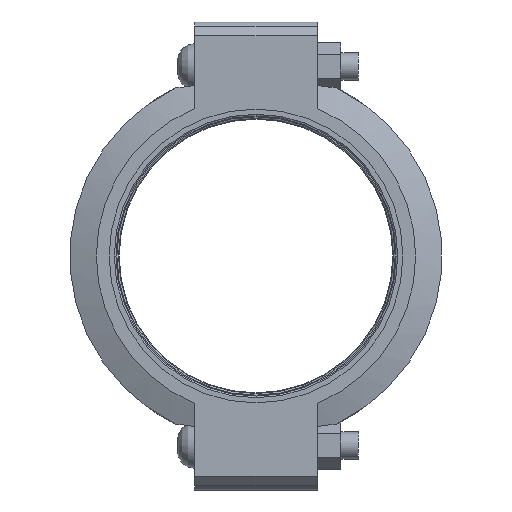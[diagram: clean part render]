
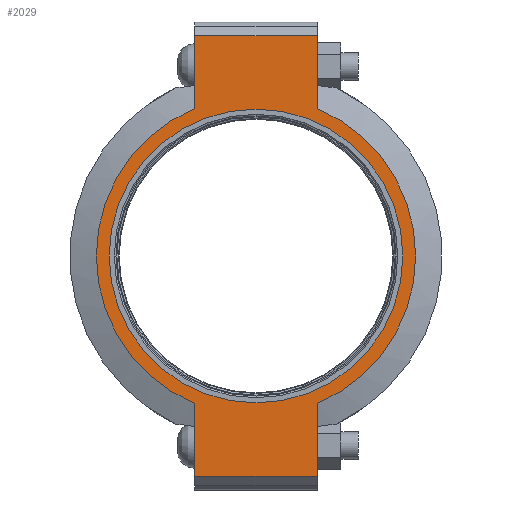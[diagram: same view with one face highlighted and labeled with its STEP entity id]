
A CAD part, left-side view. The second image highlights one B-rep face of the part: STEP entity #2029.
In plain terms, the highlighted planar face has unit normal (-1, 0, 0) as drawn and (0, 0, 1) by its records, which use the part's own axes.
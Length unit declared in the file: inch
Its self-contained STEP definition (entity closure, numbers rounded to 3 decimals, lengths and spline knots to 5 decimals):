
#138=LINE('',#3570,#231);
#149=LINE('',#3621,#242);
#155=LINE('',#3647,#248);
#157=LINE('',#3650,#250);
#158=LINE('',#3655,#251);
#159=LINE('',#3656,#252);
#231=VECTOR('',#2913,0.3937);
#242=VECTOR('',#2944,0.3937);
#248=VECTOR('',#2962,0.3937);
#250=VECTOR('',#2966,0.3937);
#251=VECTOR('',#2971,0.3937);
#252=VECTOR('',#2972,0.3937);
#315=FACE_BOUND('',#568,.T.);
#358=PLANE('',#2375);
#445=FACE_OUTER_BOUND('',#567,.T.);
#567=EDGE_LOOP('',(#1702,#1703,#1704,#1705,#1706,#1707,#1708,#1709));
#568=EDGE_LOOP('',(#1710));
#752=CIRCLE('',#2376,5.845);
#753=CIRCLE('',#2377,5.845);
#754=CIRCLE('',#2378,5.375);
#924=VERTEX_POINT('',#3567);
#925=VERTEX_POINT('',#3569);
#942=VERTEX_POINT('',#3616);
#943=VERTEX_POINT('',#3620);
#950=VERTEX_POINT('',#3642);
#951=VERTEX_POINT('',#3646);
#952=VERTEX_POINT('',#3652);
#953=VERTEX_POINT('',#3654);
#954=VERTEX_POINT('',#3658);
#1179=EDGE_CURVE('',#925,#924,#138,.T.);
#1200=EDGE_CURVE('',#943,#942,#149,.T.);
#1211=EDGE_CURVE('',#951,#950,#155,.T.);
#1213=EDGE_CURVE('',#951,#924,#157,.T.);
#1214=EDGE_CURVE('',#950,#952,#752,.T.);
#1215=EDGE_CURVE('',#952,#953,#158,.T.);
#1216=EDGE_CURVE('',#943,#953,#159,.T.);
#1217=EDGE_CURVE('',#942,#925,#753,.T.);
#1218=EDGE_CURVE('',#954,#954,#754,.T.);
#1702=ORIENTED_EDGE('',*,*,#1213,.F.);
#1703=ORIENTED_EDGE('',*,*,#1211,.T.);
#1704=ORIENTED_EDGE('',*,*,#1214,.T.);
#1705=ORIENTED_EDGE('',*,*,#1215,.T.);
#1706=ORIENTED_EDGE('',*,*,#1216,.F.);
#1707=ORIENTED_EDGE('',*,*,#1200,.T.);
#1708=ORIENTED_EDGE('',*,*,#1217,.T.);
#1709=ORIENTED_EDGE('',*,*,#1179,.T.);
#1710=ORIENTED_EDGE('',*,*,#1218,.T.);
#2029=ADVANCED_FACE('',(#445,#315),#358,.T.);
#2375=AXIS2_PLACEMENT_3D('',#3651,#2967,#2968);
#2376=AXIS2_PLACEMENT_3D('',#3653,#2969,#2970);
#2377=AXIS2_PLACEMENT_3D('',#3657,#2973,#2974);
#2378=AXIS2_PLACEMENT_3D('',#3659,#2975,#2976);
#2913=DIRECTION('',(1.,0.,0.));
#2944=DIRECTION('',(1.,0.,0.));
#2962=DIRECTION('',(-1.,0.,0.));
#2966=DIRECTION('',(0.,-1.,0.));
#2967=DIRECTION('center_axis',(0.,0.,1.));
#2968=DIRECTION('ref_axis',(-1.,0.,0.));
#2969=DIRECTION('center_axis',(0.,0.,1.));
#2970=DIRECTION('ref_axis',(1.,0.,0.));
#2971=DIRECTION('',(-1.,0.,0.));
#2972=DIRECTION('',(0.,1.,0.));
#2973=DIRECTION('center_axis',(0.,0.,1.));
#2974=DIRECTION('ref_axis',(1.,0.,0.));
#2975=DIRECTION('center_axis',(0.,0.,-1.));
#2976=DIRECTION('ref_axis',(1.,0.,0.));
#3567=CARTESIAN_POINT('',(8.065,-2.25,1.315));
#3569=CARTESIAN_POINT('',(5.39458,-2.25,1.315));
#3570=CARTESIAN_POINT('',(-8.565,-2.25,1.315));
#3616=CARTESIAN_POINT('',(-5.39458,-2.25,1.315));
#3620=CARTESIAN_POINT('',(-8.065,-2.25,1.315));
#3621=CARTESIAN_POINT('',(-8.565,-2.25,1.315));
#3642=CARTESIAN_POINT('',(5.39458,2.25,1.315));
#3646=CARTESIAN_POINT('',(8.065,2.25,1.315));
#3647=CARTESIAN_POINT('',(8.565,2.25,1.315));
#3650=CARTESIAN_POINT('',(8.065,-1.125,1.315));
#3651=CARTESIAN_POINT('Origin',(0.,0.,
1.315));
#3652=CARTESIAN_POINT('',(-5.39458,2.25,1.315));
#3653=CARTESIAN_POINT('Origin',(0.,0.,1.315));
#3654=CARTESIAN_POINT('',(-8.065,2.25,1.315));
#3655=CARTESIAN_POINT('',(8.565,2.25,1.315));
#3656=CARTESIAN_POINT('',(-8.065,1.125,1.315));
#3657=CARTESIAN_POINT('Origin',(0.,0.,1.315));
#3658=CARTESIAN_POINT('',(-5.375,0.,1.315));
#3659=CARTESIAN_POINT('Origin',(0.,0.,1.315));
